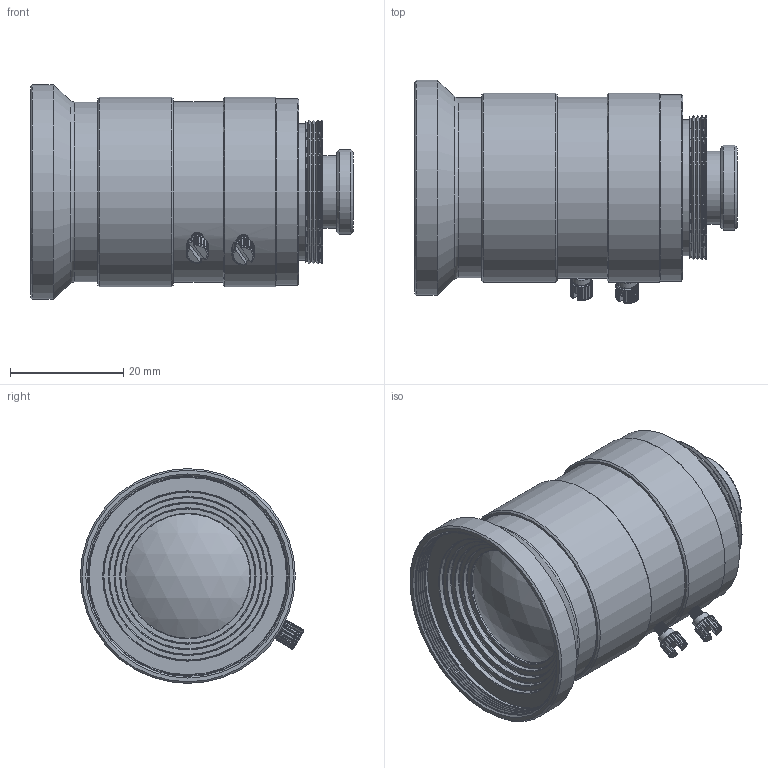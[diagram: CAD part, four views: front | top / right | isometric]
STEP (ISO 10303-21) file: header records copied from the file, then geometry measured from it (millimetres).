
FILE_DESCRIPTION(/* description */ ('TCL 0616 5MP'),/* implementation_level */ '2;1');
FILE_NAME(/* name */ 'D:\1_Konstruktion\1_KUNDEN\TIS\199-15_Objektive_Step-Dateien für Endkundem\C-Objektive (8x)\Lens_TCL 0616 5MP.stp',/* time_stamp */ '2016-01-28T19:57:52+01:00',/* author */ ('khw'),/* organization */ (''),/* preprocessor_version */ 'ST-DEVELOPER v15.2',/* originating_system */ 'Autodesk Inventor 2014',/* authorisation */ '6767,5 mm^3');
FILE_SCHEMA (('AUTOMOTIVE_DESIGN { 1 0 10303 214 3 1 1 }'));
Length unit declared in the file: millimetre
Products named in the file (1): Lens_TCL 0616 5MP
Bounding box: 57.11 x 39.47 x 38 mm (x, y, z)
Volume: 10537.1 mm3; surface area: 21386.2 mm2
Topology: 3 solids, 4 shells, 805 faces, 2472 edges, 1361 vertices
Faces by surface type: bspline 330, cylinder 240, plane 151, cone 74, torus 5, sphere 5
Full cylindrical faces by diameter (mm): 2 x34, 3.1 x2, 8.78 x1, 9.42 x1, 11 x2, 12.9 x1, 13 x1, 13.358 x2, 13.6 x1, 15 x1, 19 x6, 20 x2, 21 x1, 21.1 x1, 22 x1, 22.28 x1, 23 x2, 23.066 x1, 23.92 x1, 24.066 x1, 24.5 x1, 25.466 x4, 25.7 x1, 25.76 x8, 25.92 x1, 27 x2, 27.6 x1, 27.92 x1, 28.6 x1, 29 x1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
Entity records: 69809 total; most frequent: CARTESIAN_POINT 51299, ORIENTED_EDGE 4208, DIRECTION 3095, EDGE_CURVE 2104, AXIS2_PLACEMENT_3D 1378, VERTEX_POINT 1303, EDGE_LOOP 953, CIRCLE 928
